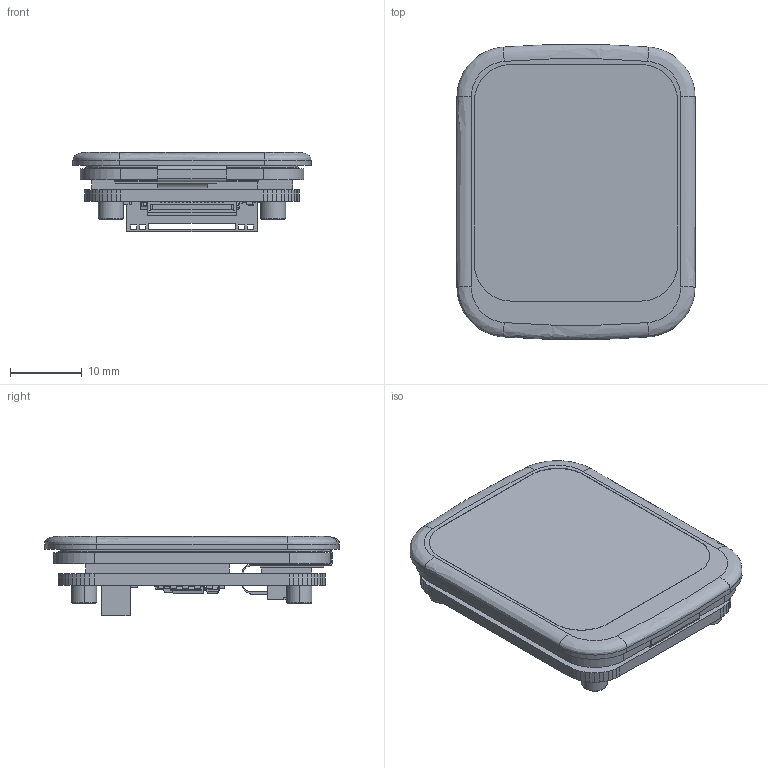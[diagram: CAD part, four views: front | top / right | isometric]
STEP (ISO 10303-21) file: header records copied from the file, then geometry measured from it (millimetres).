
FILE_DESCRIPTION((''),'2;1');
FILE_NAME('1_69INCH-TOUCH-LCD-MODULE_ASM','2026-06-12T09:52:54',('xiaojisheng'),(''),'CREO PARAMETRIC BY PTC INC, 2021063','CREO PARAMETRIC BY PTC INC, 2021063','');
FILE_SCHEMA(('CONFIG_CONTROL_DESIGN','SHAPE_APPEARANCE_LAYERS_GROUPS'));
Products named in the file (56): 1_69INCH-240X280-CTP_6; BOARD_2; SOT23-5AND6__100_1; SOT23-6-7933_AF0_1; SOT23-6-13550_AF0_ASM_ASM_1_ASM; SOT23-6_ASM_1_ASM; M1_ASM_1_ASM; SW3DPS-SOT-23-5-DEFAULT_1; U2_ASM_1_ASM; USER_LIBRARY-TSSOP-20-2__-81694; USER_LIBRARY-TSSOP-20-2__-82645; USER_LIBRARY-TSSOP-20-2__-828_1; USER_LIBRARY-TSSOP-20-2__-828_2; USER_LIBRARY-TSSOP-20-2__-82842_ASM; TSSOP-20_ASM_1_ASM; U1_ASM_1_ASM; EXTRUDED-84872_1; 1248190528_ASM_1_ASM; EXTRUDED-85244_1; 1248190400_ASM_1_ASM; EXTRUDED-85616_1; 1248190144_ASM_1_ASM; EXTRUDED-85988_1; 516213392_ASM_1_ASM; Q1_ASM_1_ASM; EXTRUDED-86391_1; 516215568_ASM_1_ASM; EXTRUDED-86763_1; 1248191040_ASM_1_ASM; C1_ASM_1_ASM; C2_ASM_1_ASM; C4_ASM_1_ASM; C5_ASM_1_ASM; C6_ASM_1_ASM; C7_ASM_1_ASM; R1_ASM_1_ASM; R2_ASM_1_ASM; R3_ASM_1_ASM; R4_ASM_1_ASM; EXTRUDED-87585_1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
Assembly tree (116 placements, depth 7):
  1_69INCH-TOUCH-LCD-MODULE_ASM
    1_69INCH-240X280-CTP_6
    1_69INCH_TOUCH_LCD_PCBA_ASM_3_ASM
      PCB_ASM_1_ASM
        BOARD_2
        M1_ASM_1_ASM
          SOT23-6_ASM_1_ASM
            SOT23-6-13550_AF0_ASM_ASM_1_ASM
              SOT23-5AND6__100_1  x6
              SOT23-6-7933_AF0_1
        U2_ASM_1_ASM
          SW3DPS-SOT-23-5-DEFAULT_1
        U1_ASM_1_ASM
          TSSOP-20_ASM_1_ASM
            USER_LIBRARY-TSSOP-20-2__-81694
            USER_LIBRARY-TSSOP-20-2__-82645
            USER_LIBRARY-TSSOP-20-2__-82842_ASM  x10
              USER_LIBRARY-TSSOP-20-2__-828_1
              USER_LIBRARY-TSSOP-20-2__-828_2
        Q1_ASM_1_ASM
          1248190528_ASM_1_ASM
            EXTRUDED-84872_1
          1248190400_ASM_1_ASM
            EXTRUDED-85244_1
          1248190144_ASM_1_ASM
            EXTRUDED-85616_1
          516213392_ASM_1_ASM
            EXTRUDED-85988_1
        C1_ASM_1_ASM
          516215568_ASM_1_ASM
            EXTRUDED-86391_1
          1248191040_ASM_1_ASM  x2
            EXTRUDED-86763_1
        C2_ASM_1_ASM
          516215568_ASM_1_ASM
            EXTRUDED-86391_1
          1248191040_ASM_1_ASM  x2
            EXTRUDED-86763_1
        C4_ASM_1_ASM
          516215568_ASM_1_ASM
            EXTRUDED-86391_1
          1248191040_ASM_1_ASM  x2
            EXTRUDED-86763_1
        C5_ASM_1_ASM
          516215568_ASM_1_ASM
            EXTRUDED-86391_1
          1248191040_ASM_1_ASM  x2
            EXTRUDED-86763_1
        C6_ASM_1_ASM
          516215568_ASM_1_ASM
            EXTRUDED-86391_1
          1248191040_ASM_1_ASM  x2
            EXTRUDED-86763_1
        C7_ASM_1_ASM
          516215568_ASM_1_ASM
            EXTRUDED-86391_1
          1248191040_ASM_1_ASM  x2
            EXTRUDED-86763_1
        R1_ASM_1_ASM
          1248191040_ASM_1_ASM  x2
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Bounding box: 33.13 x 41.04 x 11 mm (x, y, z)
Volume: 7171.7 mm3; surface area: 11024.5 mm2
Topology: 91 solids, 92 shells, 2271 faces, 5718 edges, 3674 vertices
Faces by surface type: plane 1594, cylinder 400, extrusion 145, torus 48, sphere 38, bspline 24, cone 16, revolution 6
Entity records: 63221 total; most frequent: CARTESIAN_POINT 13604, ORIENTED_EDGE 7480, DIRECTION 6903, PRESENTATION_STYLE_ASSIGNMENT 3825, EDGE_CURVE 3740, STYLED_ITEM 3594, CURVE_STYLE 3460, VECTOR 3201
